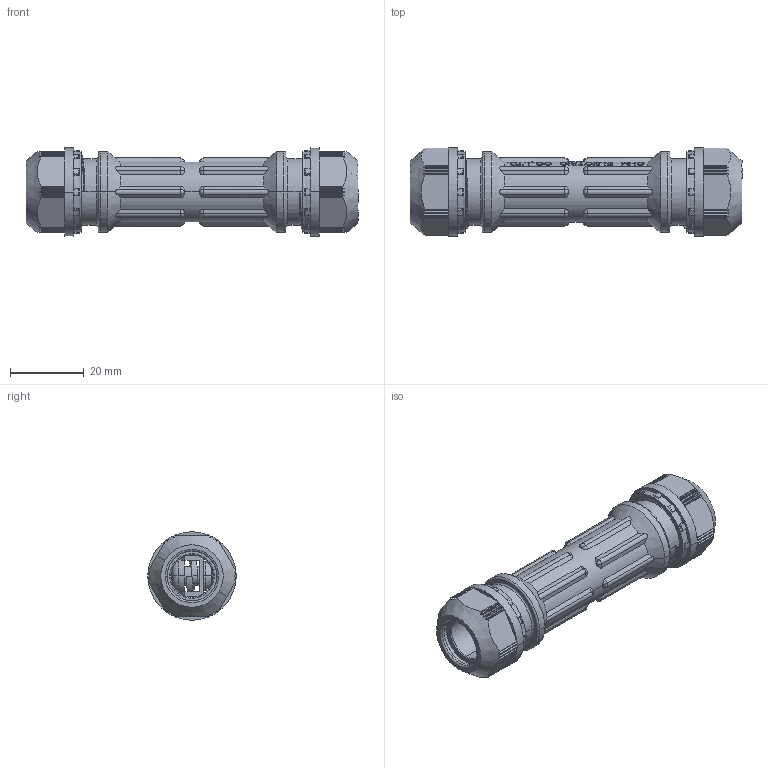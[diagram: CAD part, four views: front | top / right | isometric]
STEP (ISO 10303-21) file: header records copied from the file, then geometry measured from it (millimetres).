
FILE_DESCRIPTION(('Creo Elements/Direct Modeling STEP Export'),'2;1');
FILE_NAME('20120830_OA-QW11S.stp','2012-09-07T15:55:00',(''),(''),'Creo Elements/Direct Modeling STEP processor for AP214 (Solid Model)','Creo Elements/Direct Modeling 18.0B 02-Dec-2011 (C) Parametric Technology GmbH','');
FILE_SCHEMA(('AUTOMOTIVE_DESIGN { 1 0 10303 214 1 1 1 1 }'));
Products named in the file (10): OA-QW本体; G11-11; 左側ゴムブッシュ; 右側ゴムブッシュ; QW-J1_本体; M6_バネ座金; Ｍ6_ねじ; QW-J1; OA-QW11S
Assembly tree (9 placements, depth 3):
  OA-QW11S
    QW-J1
      Ｍ6_ねじ
      M6_バネ座金
      QW-J1_本体
    右側ゴムブッシュ
      G11-11
    左側ゴムブッシュ
      G11-11
    OA-QW本体
Bounding box: 90.24 x 24 x 24 mm (x, y, z)
Volume: 16623 mm3; surface area: 16778.4 mm2
Topology: 6 solids, 6 shells, 1658 faces, 4658 edges, 3072 vertices
Faces by surface type: plane 1230, cylinder 284, torus 64, cone 60, bspline 20
Entity records: 66231 total; most frequent: CARTESIAN_POINT 23688, ORIENTED_EDGE 9316, DIRECTION 8235, EDGE_CURVE 4658, VERTEX_POINT 3072, VECTOR 2747, LINE 2747, AXIS2_PLACEMENT_3D 2744
